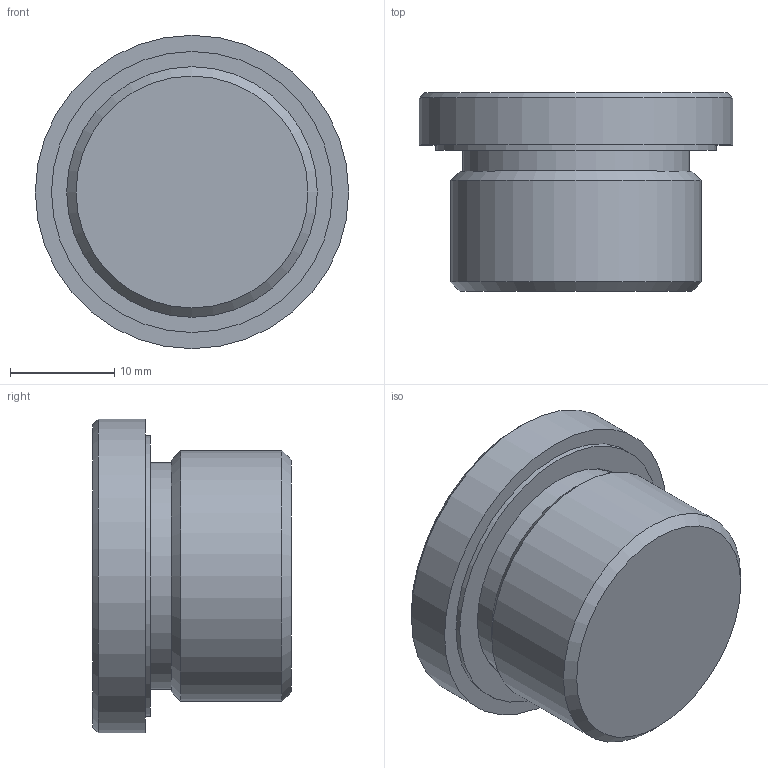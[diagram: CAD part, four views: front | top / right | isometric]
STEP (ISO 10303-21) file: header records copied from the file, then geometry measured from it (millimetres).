
FILE_DESCRIPTION( ( 'STEP AP203' ), '1' );
FILE_NAME( 'C:/Temp/Ganter_Step_05_03_2020/data/3_5/gn749/gn749_a/Threaded plug GN 749-M24x1,5-A.stp', '2020-03-12T13:41:35', ( 'License CC BY-ND 4.0' ), ( 'CADENAS' ), ' ', 'PARTsolutions', ' ' );
FILE_SCHEMA( ( 'CONFIG_CONTROL_DESIGN' ) );
Length unit declared in the file: millimetre
Products named in the file (1): _Threaded plug GN 749-M24x1,5-A
Bounding box: 30 x 19 x 30 mm (x, y, z)
Volume: 8560.2 mm3; surface area: 3429.1 mm2
Topology: 1 solids, 1 shells, 21 faces, 41 edges, 27 vertices
Faces by surface type: plane 13, cylinder 5, cone 3
Full cylindrical faces by diameter (mm): 21.7 x1, 22.1 x1, 24 x1, 26.9 x1, 30 x1
Entity records: 526 total; most frequent: DIRECTION 88, CARTESIAN_POINT 78, ORIENTED_EDGE 62, AXIS2_PLACEMENT_3D 35, EDGE_LOOP 34, EDGE_CURVE 31, FACE_OUTER_BOUND 26, VERTEX_POINT 25
